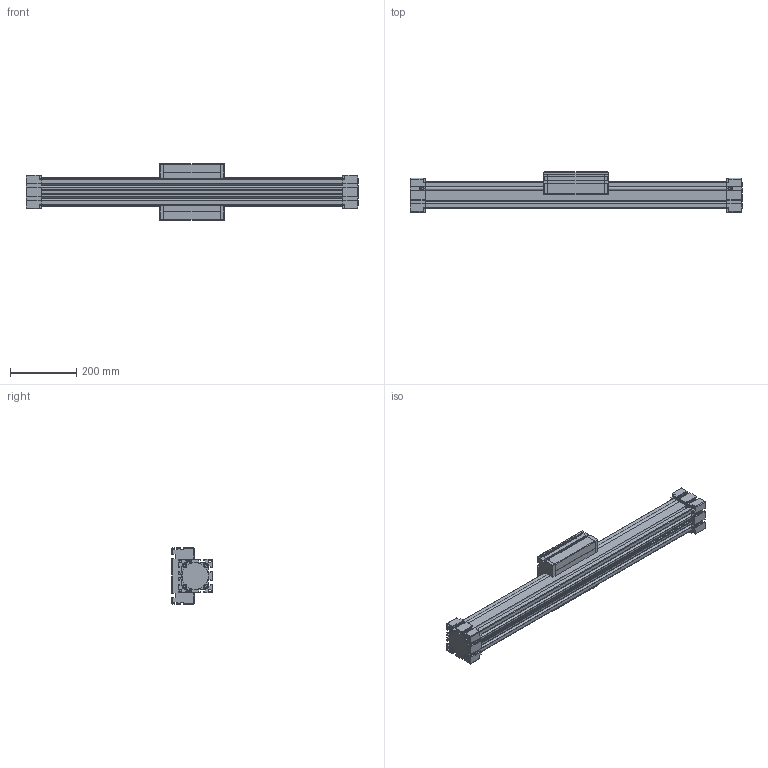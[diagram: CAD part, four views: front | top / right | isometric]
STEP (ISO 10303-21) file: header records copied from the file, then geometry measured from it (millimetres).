
FILE_DESCRIPTION (( 'STEP AP214' ), '1' );
FILE_NAME ('ELR-80.STEP', '2016-01-15T07:11:55', ( 'admin' ), ( '' ), 'SwSTEP 2.0', 'SolidWorks 2015', '' );
FILE_SCHEMA (( 'AUTOMOTIVE_DESIGN' ));
Length unit declared in the file: millimetre
Products named in the file (5): Kopie von Bahr-ELR-ELR-80  0  0 0  0 0 0 0  1305_ELR End Block 80 (B)^ELR80 S0_ELR-80 End Block 0-0; Kopie von Bahr-ELR-ELR-80  0  0 0  0 0 0 0  1305_ELR End Block 80 (A)^ELR80 S0_ELR-80 End Block 0-0; ELR-80; Kopie von Bahr-ELR-ELR-80  0  0 0  0 0 0 0  1305_EL80 Carriage^ELR80 S0_A; Kopie von Bahr-ELR-ELR-80  0  0 0  0 0 0 0  1305_EL80 Extrusion^ELR80 S0_0
Assembly tree (4 placements, depth 2):
  ELR-80
    Kopie von Bahr-ELR-ELR-80  0  0 0  0 0 0 0  1305_ELR End Block 80 (A)^ELR80 S0_ELR-80 End Block 0-0
    Kopie von Bahr-ELR-ELR-80  0  0 0  0 0 0 0  1305_ELR End Block 80 (B)^ELR80 S0_ELR-80 End Block 0-0
    Kopie von Bahr-ELR-ELR-80  0  0 0  0 0 0 0  1305_EL80 Extrusion^ELR80 S0_0
    Kopie von Bahr-ELR-ELR-80  0  0 0  0 0 0 0  1305_EL80 Carriage^ELR80 S0_A
Bounding box: 1002 x 121 x 170 mm (x, y, z)
Volume: 7527611 mm3; surface area: 687433.4 mm2
Topology: 14 solids, 14 shells, 992 faces, 2728 edges, 1763 vertices
Faces by surface type: plane 704, cylinder 230, cone 24, bspline 17, torus 9, sphere 8
Entity records: 31810 total; most frequent: CARTESIAN_POINT 6060, ORIENTED_EDGE 5406, DIRECTION 5108, EDGE_CURVE 2703, LINE 2194, VECTOR 2194, VERTEX_POINT 1763, AXIS2_PLACEMENT_3D 1457
